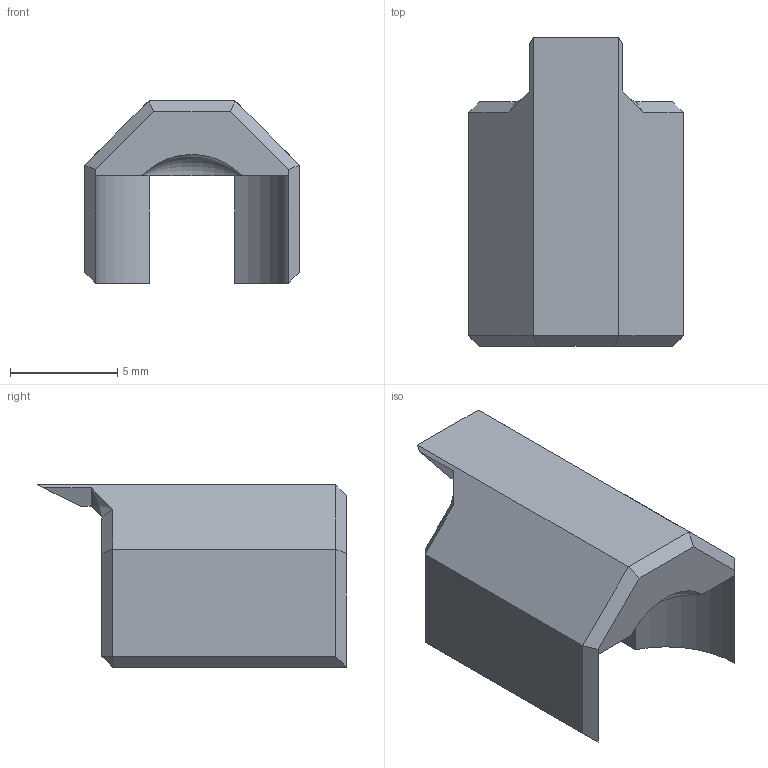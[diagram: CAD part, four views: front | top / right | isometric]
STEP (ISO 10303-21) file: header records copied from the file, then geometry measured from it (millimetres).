
FILE_DESCRIPTION (( 'STEP AP214' ), '1' );
FILE_NAME ('Neck Armor.STEP', '2023-12-23T22:29:13', ( '' ), ( '' ), 'SwSTEP 2.0', 'SolidWorks 2023', '' );
FILE_SCHEMA (( 'AUTOMOTIVE_DESIGN' ));
Length unit declared in the file: millimetre
Products named in the file (1): Neck Armor
Bounding box: 10 x 14.4 x 8.5 mm (x, y, z)
Volume: 549.1 mm3; surface area: 612.3 mm2
Topology: 1 solids, 1 shells, 45 faces, 104 edges, 60 vertices
Faces by surface type: plane 40, cylinder 2, bspline 2, torus 1
Entity records: 1229 total; most frequent: CARTESIAN_POINT 218, ORIENTED_EDGE 204, DIRECTION 192, EDGE_CURVE 102, VECTOR 92, LINE 92, VERTEX_POINT 60, AXIS2_PLACEMENT_3D 50
